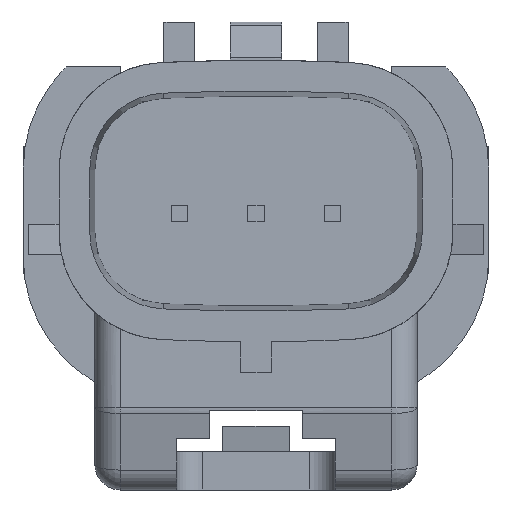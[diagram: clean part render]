
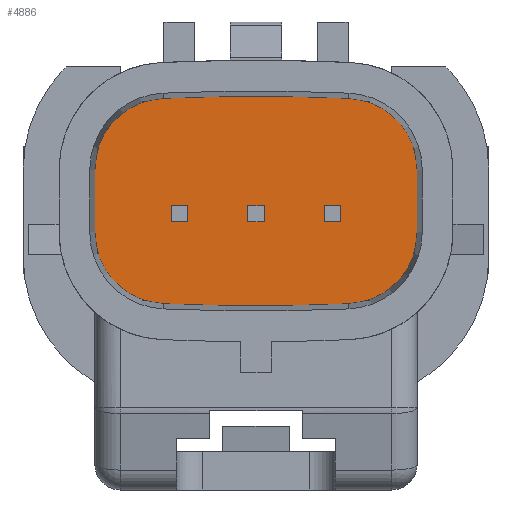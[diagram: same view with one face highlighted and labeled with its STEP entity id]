
A CAD part, left-side view. The second image highlights one B-rep face of the part: STEP entity #4886.
In plain terms, the highlighted planar face has unit normal (-1, 0, 0).
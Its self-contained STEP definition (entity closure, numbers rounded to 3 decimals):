
#4614=CARTESIAN_POINT('Axis2P3D Location',(0.,6.5,1.722)) ;
#4618=CARTESIAN_POINT('Vertex',(0.,9.3,1.722)) ;
#4620=CARTESIAN_POINT('Vertex',(0.,6.625,4.519)) ;
#4669=CARTESIAN_POINT('Line Origine',(0.,9.3,0.5)) ;
#4673=CARTESIAN_POINT('Vertex',(0.,9.3,-0.722)) ;
#4717=CARTESIAN_POINT('Axis2P3D Location',(0.,3.,-76.714)) ;
#4721=CARTESIAN_POINT('Vertex',(0.,-0.625,4.519)) ;
#4736=CARTESIAN_POINT('Axis2P3D Location',(0.,3.,0.5)) ;
#4741=CARTESIAN_POINT('Axis2P3D Location',(0.,6.5,-0.722)) ;
#4745=CARTESIAN_POINT('Vertex',(0.,6.625,-3.519)) ;
#4748=CARTESIAN_POINT('Axis2P3D Location',(0.,3.,77.714)) ;
#4752=CARTESIAN_POINT('Vertex',(0.,-0.625,-3.519)) ;
#4755=CARTESIAN_POINT('Axis2P3D Location',(0.,-0.5,-0.722)) ;
#4759=CARTESIAN_POINT('Vertex',(0.,-3.3,-0.722)) ;
#4762=CARTESIAN_POINT('Line Origine',(0.,-3.3,0.5)) ;
#4766=CARTESIAN_POINT('Vertex',(0.,-3.3,1.722)) ;
#4769=CARTESIAN_POINT('Axis2P3D Location',(0.,-0.5,1.722)) ;
#4784=CARTESIAN_POINT('Line Origine',(0.,-0.32,0.)) ;
#4788=CARTESIAN_POINT('Vertex',(0.,-0.32,0.32)) ;
#4790=CARTESIAN_POINT('Vertex',(0.,-0.32,-0.32)) ;
#4793=CARTESIAN_POINT('Line Origine',(0.,0.,-0.32)) ;
#4797=CARTESIAN_POINT('Vertex',(0.,0.32,-0.32)) ;
#4800=CARTESIAN_POINT('Line Origine',(0.,0.32,0.)) ;
#4804=CARTESIAN_POINT('Vertex',(0.,0.32,0.32)) ;
#4807=CARTESIAN_POINT('Line Origine',(0.,0.,0.32)) ;
#4818=CARTESIAN_POINT('Line Origine',(0.,2.68,0.)) ;
#4822=CARTESIAN_POINT('Vertex',(0.,2.68,0.32)) ;
#4824=CARTESIAN_POINT('Vertex',(0.,2.68,-0.32)) ;
#4827=CARTESIAN_POINT('Line Origine',(0.,3.,-0.32)) ;
#4831=CARTESIAN_POINT('Vertex',(0.,3.32,-0.32)) ;
#4834=CARTESIAN_POINT('Line Origine',(0.,3.32,0.)) ;
#4838=CARTESIAN_POINT('Vertex',(0.,3.32,0.32)) ;
#4841=CARTESIAN_POINT('Line Origine',(0.,3.,0.32)) ;
#4852=CARTESIAN_POINT('Line Origine',(0.,5.68,0.)) ;
#4856=CARTESIAN_POINT('Vertex',(0.,5.68,0.32)) ;
#4858=CARTESIAN_POINT('Vertex',(0.,5.68,-0.32)) ;
#4861=CARTESIAN_POINT('Line Origine',(0.,6.,-0.32)) ;
#4865=CARTESIAN_POINT('Vertex',(0.,6.32,-0.32)) ;
#4868=CARTESIAN_POINT('Line Origine',(0.,6.32,0.)) ;
#4872=CARTESIAN_POINT('Vertex',(0.,6.32,0.32)) ;
#4875=CARTESIAN_POINT('Line Origine',(0.,6.,0.32)) ;
#4615=DIRECTION('Axis2P3D Direction',(1.,0.,0.)) ;
#4670=DIRECTION('Vector Direction',(0.,0.,1.)) ;
#4718=DIRECTION('Axis2P3D Direction',(1.,0.,0.)) ;
#4737=DIRECTION('Axis2P3D Direction',(-1.,0.,0.)) ;
#4738=DIRECTION('Axis2P3D XDirection',(0.,1.,0.)) ;
#4742=DIRECTION('Axis2P3D Direction',(-1.,0.,0.)) ;
#4749=DIRECTION('Axis2P3D Direction',(-1.,0.,0.)) ;
#4756=DIRECTION('Axis2P3D Direction',(-1.,0.,0.)) ;
#4763=DIRECTION('Vector Direction',(0.,0.,-1.)) ;
#4770=DIRECTION('Axis2P3D Direction',(-1.,0.,0.)) ;
#4785=DIRECTION('Vector Direction',(0.,0.,-1.)) ;
#4794=DIRECTION('Vector Direction',(0.,1.,0.)) ;
#4801=DIRECTION('Vector Direction',(0.,0.,1.)) ;
#4808=DIRECTION('Vector Direction',(0.,-1.,0.)) ;
#4819=DIRECTION('Vector Direction',(0.,0.,-1.)) ;
#4828=DIRECTION('Vector Direction',(0.,1.,0.)) ;
#4835=DIRECTION('Vector Direction',(0.,0.,1.)) ;
#4842=DIRECTION('Vector Direction',(0.,-1.,0.)) ;
#4853=DIRECTION('Vector Direction',(0.,0.,-1.)) ;
#4862=DIRECTION('Vector Direction',(0.,1.,0.)) ;
#4869=DIRECTION('Vector Direction',(0.,0.,1.)) ;
#4876=DIRECTION('Vector Direction',(0.,-1.,0.)) ;
#4616=AXIS2_PLACEMENT_3D('Circle Axis2P3D',#4614,#4615,$) ;
#4719=AXIS2_PLACEMENT_3D('Circle Axis2P3D',#4717,#4718,$) ;
#4739=AXIS2_PLACEMENT_3D('Plane Axis2P3D',#4736,#4737,#4738) ;
#4743=AXIS2_PLACEMENT_3D('Circle Axis2P3D',#4741,#4742,$) ;
#4750=AXIS2_PLACEMENT_3D('Circle Axis2P3D',#4748,#4749,$) ;
#4757=AXIS2_PLACEMENT_3D('Circle Axis2P3D',#4755,#4756,$) ;
#4771=AXIS2_PLACEMENT_3D('Circle Axis2P3D',#4769,#4770,$) ;
#4775=ORIENTED_EDGE('',*,*,#4675,.F.) ;
#4776=ORIENTED_EDGE('',*,*,#4747,.F.) ;
#4777=ORIENTED_EDGE('',*,*,#4754,.F.) ;
#4778=ORIENTED_EDGE('',*,*,#4761,.F.) ;
#4779=ORIENTED_EDGE('',*,*,#4768,.F.) ;
#4780=ORIENTED_EDGE('',*,*,#4773,.F.) ;
#4781=ORIENTED_EDGE('',*,*,#4723,.F.) ;
#4782=ORIENTED_EDGE('',*,*,#4622,.F.) ;
#4813=ORIENTED_EDGE('',*,*,#4792,.T.) ;
#4814=ORIENTED_EDGE('',*,*,#4799,.T.) ;
#4815=ORIENTED_EDGE('',*,*,#4806,.T.) ;
#4816=ORIENTED_EDGE('',*,*,#4811,.T.) ;
#4847=ORIENTED_EDGE('',*,*,#4826,.T.) ;
#4848=ORIENTED_EDGE('',*,*,#4833,.T.) ;
#4849=ORIENTED_EDGE('',*,*,#4840,.T.) ;
#4850=ORIENTED_EDGE('',*,*,#4845,.T.) ;
#4881=ORIENTED_EDGE('',*,*,#4860,.T.) ;
#4882=ORIENTED_EDGE('',*,*,#4867,.T.) ;
#4883=ORIENTED_EDGE('',*,*,#4874,.T.) ;
#4884=ORIENTED_EDGE('',*,*,#4879,.T.) ;
#4817=FACE_BOUND('',#4812,.T.) ;
#4851=FACE_BOUND('',#4846,.T.) ;
#4885=FACE_BOUND('',#4880,.T.) ;
#4671=VECTOR('Line Direction',#4670,1.) ;
#4764=VECTOR('Line Direction',#4763,1.) ;
#4786=VECTOR('Line Direction',#4785,1.) ;
#4795=VECTOR('Line Direction',#4794,1.) ;
#4802=VECTOR('Line Direction',#4801,1.) ;
#4809=VECTOR('Line Direction',#4808,1.) ;
#4820=VECTOR('Line Direction',#4819,1.) ;
#4829=VECTOR('Line Direction',#4828,1.) ;
#4836=VECTOR('Line Direction',#4835,1.) ;
#4843=VECTOR('Line Direction',#4842,1.) ;
#4854=VECTOR('Line Direction',#4853,1.) ;
#4863=VECTOR('Line Direction',#4862,1.) ;
#4870=VECTOR('Line Direction',#4869,1.) ;
#4877=VECTOR('Line Direction',#4876,1.) ;
#4886=ADVANCED_FACE('\X2\FF8AFF9FFF70FF82\X0\ \X2\FF8EFF9EFF83FF9EFF68FF70\X0\',(#4783,#4817,#4851,#4885),#4740,.T.) ;
#4617=CIRCLE('generated circle',#4616,2.8) ;
#4720=CIRCLE('generated circle',#4719,81.314) ;
#4744=CIRCLE('generated circle',#4743,2.8) ;
#4751=CIRCLE('generated circle',#4750,81.314) ;
#4758=CIRCLE('generated circle',#4757,2.8) ;
#4772=CIRCLE('generated circle',#4771,2.8) ;
#4622=EDGE_CURVE('',#4619,#4621,#4617,.T.) ;
#4675=EDGE_CURVE('',#4674,#4619,#4672,.T.) ;
#4723=EDGE_CURVE('',#4621,#4722,#4720,.T.) ;
#4747=EDGE_CURVE('',#4746,#4674,#4744,.F.) ;
#4754=EDGE_CURVE('',#4753,#4746,#4751,.F.) ;
#4761=EDGE_CURVE('',#4760,#4753,#4758,.F.) ;
#4768=EDGE_CURVE('',#4767,#4760,#4765,.T.) ;
#4773=EDGE_CURVE('',#4722,#4767,#4772,.F.) ;
#4792=EDGE_CURVE('',#4789,#4791,#4787,.T.) ;
#4799=EDGE_CURVE('',#4791,#4798,#4796,.T.) ;
#4806=EDGE_CURVE('',#4798,#4805,#4803,.T.) ;
#4811=EDGE_CURVE('',#4805,#4789,#4810,.T.) ;
#4826=EDGE_CURVE('',#4823,#4825,#4821,.T.) ;
#4833=EDGE_CURVE('',#4825,#4832,#4830,.T.) ;
#4840=EDGE_CURVE('',#4832,#4839,#4837,.T.) ;
#4845=EDGE_CURVE('',#4839,#4823,#4844,.T.) ;
#4860=EDGE_CURVE('',#4857,#4859,#4855,.T.) ;
#4867=EDGE_CURVE('',#4859,#4866,#4864,.T.) ;
#4874=EDGE_CURVE('',#4866,#4873,#4871,.T.) ;
#4879=EDGE_CURVE('',#4873,#4857,#4878,.T.) ;
#4774=EDGE_LOOP('',(#4775,#4776,#4777,#4778,#4779,#4780,#4781,#4782)) ;
#4812=EDGE_LOOP('',(#4813,#4814,#4815,#4816)) ;
#4846=EDGE_LOOP('',(#4847,#4848,#4849,#4850)) ;
#4880=EDGE_LOOP('',(#4881,#4882,#4883,#4884)) ;
#4783=FACE_OUTER_BOUND('',#4774,.T.) ;
#4672=LINE('Line',#4669,#4671) ;
#4765=LINE('Line',#4762,#4764) ;
#4787=LINE('Line',#4784,#4786) ;
#4796=LINE('Line',#4793,#4795) ;
#4803=LINE('Line',#4800,#4802) ;
#4810=LINE('Line',#4807,#4809) ;
#4821=LINE('Line',#4818,#4820) ;
#4830=LINE('Line',#4827,#4829) ;
#4837=LINE('Line',#4834,#4836) ;
#4844=LINE('Line',#4841,#4843) ;
#4855=LINE('Line',#4852,#4854) ;
#4864=LINE('Line',#4861,#4863) ;
#4871=LINE('Line',#4868,#4870) ;
#4878=LINE('Line',#4875,#4877) ;
#4740=PLANE('',#4739) ;
#4619=VERTEX_POINT('',#4618) ;
#4621=VERTEX_POINT('',#4620) ;
#4674=VERTEX_POINT('',#4673) ;
#4722=VERTEX_POINT('',#4721) ;
#4746=VERTEX_POINT('',#4745) ;
#4753=VERTEX_POINT('',#4752) ;
#4760=VERTEX_POINT('',#4759) ;
#4767=VERTEX_POINT('',#4766) ;
#4789=VERTEX_POINT('',#4788) ;
#4791=VERTEX_POINT('',#4790) ;
#4798=VERTEX_POINT('',#4797) ;
#4805=VERTEX_POINT('',#4804) ;
#4823=VERTEX_POINT('',#4822) ;
#4825=VERTEX_POINT('',#4824) ;
#4832=VERTEX_POINT('',#4831) ;
#4839=VERTEX_POINT('',#4838) ;
#4857=VERTEX_POINT('',#4856) ;
#4859=VERTEX_POINT('',#4858) ;
#4866=VERTEX_POINT('',#4865) ;
#4873=VERTEX_POINT('',#4872) ;
